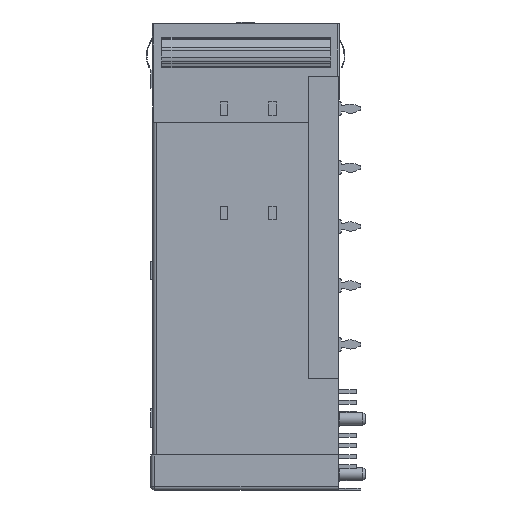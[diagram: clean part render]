
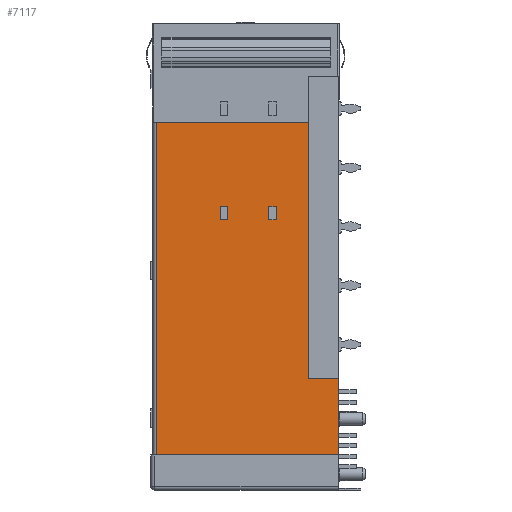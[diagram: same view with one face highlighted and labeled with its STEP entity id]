
A CAD part, left-side view. The second image highlights one B-rep face of the part: STEP entity #7117.
In plain terms, the highlighted planar face has unit normal (-1, 0, 0).
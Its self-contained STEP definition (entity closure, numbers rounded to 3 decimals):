
#319 = ORIENTED_EDGE ( 'NONE', *, *, #51972, .F. ) ;
#767 = VECTOR ( 'NONE', #52129, 1000. ) ;
#1542 = CARTESIAN_POINT ( 'NONE',  ( -21.5, 9.45, -26.6 ) ) ;
#1600 = EDGE_CURVE ( 'NONE', #28925, #17023, #5332, .T. ) ;
#2069 = VECTOR ( 'NONE', #44179, 1000. ) ;
#2095 = FACE_BOUND ( 'NONE', #28884, .T. ) ;
#2828 = ORIENTED_EDGE ( 'NONE', *, *, #19752, .T. ) ;
#3067 = CARTESIAN_POINT ( 'NONE',  ( -21.5, 15., -24.8 ) ) ;
#3678 = DIRECTION ( 'NONE',  ( 0., 0., 1. ) ) ;
#4198 = ORIENTED_EDGE ( 'NONE', *, *, #43707, .T. ) ;
#5101 = VERTEX_POINT ( 'NONE', #8164 ) ;
#5332 = LINE ( 'NONE', #10812, #2069 ) ;
#5864 = EDGE_CURVE ( 'NONE', #17023, #11345, #30369, .T. ) ;
#6073 = DIRECTION ( 'NONE',  ( 0., 1., 0. ) ) ;
#6434 = ORIENTED_EDGE ( 'NONE', *, *, #28064, .T. ) ;
#7117 = ADVANCED_FACE ( 'NONE', ( #2095, #15853, #46532 ), #39528, .T. ) ;
#7789 = CARTESIAN_POINT ( 'NONE',  ( -21.5, 0., -48.1 ) ) ;
#7802 = LINE ( 'NONE', #28662, #27445 ) ;
#8133 = ORIENTED_EDGE ( 'NONE', *, *, #43147, .T. ) ;
#8164 = CARTESIAN_POINT ( 'NONE',  ( -21.5, 9.45, -24.8 ) ) ;
#8362 = ORIENTED_EDGE ( 'NONE', *, *, #45125, .T. ) ;
#8809 = VERTEX_POINT ( 'NONE', #49340 ) ;
#8814 = VECTOR ( 'NONE', #6073, 1000. ) ;
#8930 = DIRECTION ( 'NONE',  ( 0., 0., 1. ) ) ;
#9821 = VECTOR ( 'NONE', #52994, 1000. ) ;
#9947 = EDGE_CURVE ( 'NONE', #16949, #8809, #40604, .T. ) ;
#10004 = DIRECTION ( 'NONE',  ( 0., 0., -1. ) ) ;
#10062 = EDGE_CURVE ( 'NONE', #5101, #28925, #33414, .T. ) ;
#10351 = CARTESIAN_POINT ( 'NONE',  ( -21.5, 16., -24.8 ) ) ;
#10812 = CARTESIAN_POINT ( 'NONE',  ( -21.5, 8.45, -24.8 ) ) ;
#11213 = CARTESIAN_POINT ( 'NONE',  ( -21.5, 4.1, -13.4 ) ) ;
#11345 = VERTEX_POINT ( 'NONE', #44877 ) ;
#12464 = LINE ( 'NONE', #44555, #13101 ) ;
#13101 = VECTOR ( 'NONE', #23965, 1000. ) ;
#13698 = ORIENTED_EDGE ( 'NONE', *, *, #9947, .T. ) ;
#15432 = CARTESIAN_POINT ( 'NONE',  ( -21.5, 25.2, -58.5 ) ) ;
#15550 = LINE ( 'NONE', #10351, #39062 ) ;
#15730 = CARTESIAN_POINT ( 'NONE',  ( -21.5, 25.2, -13.4 ) ) ;
#15853 = FACE_BOUND ( 'NONE', #50684, .T. ) ;
#15881 = VECTOR ( 'NONE', #25457, 1000. ) ;
#16035 = DIRECTION ( 'NONE',  ( 0., 1., 0. ) ) ;
#16469 = DIRECTION ( 'NONE',  ( 0., -1., 0. ) ) ;
#16949 = VERTEX_POINT ( 'NONE', #21768 ) ;
#17023 = VERTEX_POINT ( 'NONE', #17746 ) ;
#17253 = CARTESIAN_POINT ( 'NONE',  ( -21.5, 16., -24.8 ) ) ;
#17397 = VERTEX_POINT ( 'NONE', #7789 ) ;
#17746 = CARTESIAN_POINT ( 'NONE',  ( -21.5, 8.45, -26.6 ) ) ;
#17960 = CARTESIAN_POINT ( 'NONE',  ( -21.5, 0., -48.1 ) ) ;
#18232 = CARTESIAN_POINT ( 'NONE',  ( -21.5, 24.7, -63.25 ) ) ;
#18436 = LINE ( 'NONE', #18232, #19751 ) ;
#18930 = DIRECTION ( 'NONE',  ( 0., -1., 0. ) ) ;
#19364 = CARTESIAN_POINT ( 'NONE',  ( -21.5, 24.7, -58.5 ) ) ;
#19751 = VECTOR ( 'NONE', #10004, 1000. ) ;
#19752 = EDGE_CURVE ( 'NONE', #22303, #40897, #18436, .T. ) ;
#21350 = ORIENTED_EDGE ( 'NONE', *, *, #29797, .T. ) ;
#21768 = CARTESIAN_POINT ( 'NONE',  ( -21.5, 15., -26.6 ) ) ;
#22303 = VERTEX_POINT ( 'NONE', #36373 ) ;
#22646 = ORIENTED_EDGE ( 'NONE', *, *, #49847, .T. ) ;
#22968 = CARTESIAN_POINT ( 'NONE',  ( -21.5, 0., -63.25 ) ) ;
#23138 = DIRECTION ( 'NONE',  ( -1., 0., 0. ) ) ;
#23962 = VERTEX_POINT ( 'NONE', #44482 ) ;
#23965 = DIRECTION ( 'NONE',  ( 0., 0., -1. ) ) ;
#25457 = DIRECTION ( 'NONE',  ( 0., 0., 1. ) ) ;
#27445 = VECTOR ( 'NONE', #49596, 1000. ) ;
#27876 = LINE ( 'NONE', #52305, #40856 ) ;
#28064 = EDGE_CURVE ( 'NONE', #36339, #16949, #12464, .T. ) ;
#28662 = CARTESIAN_POINT ( 'NONE',  ( -21.5, 4.1, -7.1 ) ) ;
#28850 = CARTESIAN_POINT ( 'NONE',  ( -21.5, 4.1, -48.1 ) ) ;
#28884 = EDGE_LOOP ( 'NONE', ( #45472, #31178, #50766, #8362 ) ) ;
#28925 = VERTEX_POINT ( 'NONE', #33568 ) ;
#29715 = LINE ( 'NONE', #17960, #47945 ) ;
#29797 = EDGE_CURVE ( 'NONE', #41725, #36339, #15550, .T. ) ;
#30369 = LINE ( 'NONE', #1542, #8814 ) ;
#31178 = ORIENTED_EDGE ( 'NONE', *, *, #1600, .T. ) ;
#31296 = ORIENTED_EDGE ( 'NONE', *, *, #51550, .T. ) ;
#31539 = DIRECTION ( 'NONE',  ( 0., 0., 1. ) ) ;
#32571 = EDGE_CURVE ( 'NONE', #8809, #41725, #27876, .T. ) ;
#33414 = LINE ( 'NONE', #47581, #767 ) ;
#33568 = CARTESIAN_POINT ( 'NONE',  ( -21.5, 8.45, -24.8 ) ) ;
#34137 = VECTOR ( 'NONE', #8930, 1000. ) ;
#36339 = VERTEX_POINT ( 'NONE', #3067 ) ;
#36373 = CARTESIAN_POINT ( 'NONE',  ( -21.5, 24.7, -13.4 ) ) ;
#37272 = LINE ( 'NONE', #15432, #9821 ) ;
#38186 = CARTESIAN_POINT ( 'NONE',  ( -21.5, 0., -63.25 ) ) ;
#39062 = VECTOR ( 'NONE', #18930, 1000. ) ;
#39101 = ORIENTED_EDGE ( 'NONE', *, *, #32571, .T. ) ;
#39340 = LINE ( 'NONE', #15730, #51730 ) ;
#39528 = PLANE ( 'NONE',  #50133 ) ;
#40604 = LINE ( 'NONE', #45580, #44517 ) ;
#40856 = VECTOR ( 'NONE', #3678, 1000. ) ;
#40897 = VERTEX_POINT ( 'NONE', #19364 ) ;
#41725 = VERTEX_POINT ( 'NONE', #17253 ) ;
#43147 = EDGE_CURVE ( 'NONE', #40897, #23962, #37272, .T. ) ;
#43707 = EDGE_CURVE ( 'NONE', #52847, #48354, #7802, .T. ) ;
#44179 = DIRECTION ( 'NONE',  ( 0., 0., -1. ) ) ;
#44482 = CARTESIAN_POINT ( 'NONE',  ( -21.5, 0., -58.5 ) ) ;
#44517 = VECTOR ( 'NONE', #16035, 1000. ) ;
#44555 = CARTESIAN_POINT ( 'NONE',  ( -21.5, 15., -24.8 ) ) ;
#44877 = CARTESIAN_POINT ( 'NONE',  ( -21.5, 9.45, -26.6 ) ) ;
#45125 = EDGE_CURVE ( 'NONE', #11345, #5101, #48439, .T. ) ;
#45472 = ORIENTED_EDGE ( 'NONE', *, *, #10062, .T. ) ;
#45580 = CARTESIAN_POINT ( 'NONE',  ( -21.5, 16., -26.6 ) ) ;
#46532 = FACE_OUTER_BOUND ( 'NONE', #51545, .T. ) ;
#46764 = DIRECTION ( 'NONE',  ( 0., 1., 0. ) ) ;
#47581 = CARTESIAN_POINT ( 'NONE',  ( -21.5, 9.45, -24.8 ) ) ;
#47945 = VECTOR ( 'NONE', #46764, 1000. ) ;
#48354 = VERTEX_POINT ( 'NONE', #11213 ) ;
#48439 = LINE ( 'NONE', #50183, #34137 ) ;
#49340 = CARTESIAN_POINT ( 'NONE',  ( -21.5, 16., -26.6 ) ) ;
#49596 = DIRECTION ( 'NONE',  ( 0., 0., 1. ) ) ;
#49847 = EDGE_CURVE ( 'NONE', #17397, #52847, #29715, .T. ) ;
#50133 = AXIS2_PLACEMENT_3D ( 'NONE', #22968, #23138, #31539 ) ;
#50183 = CARTESIAN_POINT ( 'NONE',  ( -21.5, 9.45, -24.8 ) ) ;
#50684 = EDGE_LOOP ( 'NONE', ( #21350, #6434, #13698, #39101 ) ) ;
#50766 = ORIENTED_EDGE ( 'NONE', *, *, #5864, .T. ) ;
#51545 = EDGE_LOOP ( 'NONE', ( #319, #2828, #8133, #31296, #22646, #4198 ) ) ;
#51550 = EDGE_CURVE ( 'NONE', #23962, #17397, #53721, .T. ) ;
#51730 = VECTOR ( 'NONE', #16469, 1000. ) ;
#51972 = EDGE_CURVE ( 'NONE', #22303, #48354, #39340, .T. ) ;
#52129 = DIRECTION ( 'NONE',  ( 0., -1., 0. ) ) ;
#52305 = CARTESIAN_POINT ( 'NONE',  ( -21.5, 16., -24.8 ) ) ;
#52847 = VERTEX_POINT ( 'NONE', #28850 ) ;
#52994 = DIRECTION ( 'NONE',  ( 0., -1., 0. ) ) ;
#53721 = LINE ( 'NONE', #38186, #15881 ) ;
